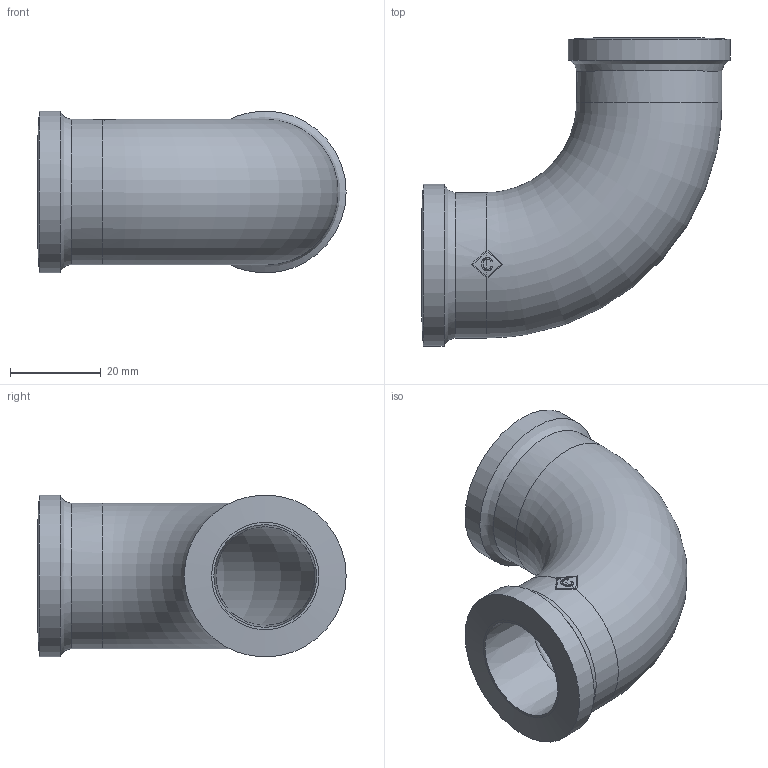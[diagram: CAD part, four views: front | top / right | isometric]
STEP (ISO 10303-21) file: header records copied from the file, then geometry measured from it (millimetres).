
FILE_DESCRIPTION((''),'2;1');
FILE_NAME('P:\Fastrack\53909_CRANE\Crane\Fig.193 Bend\New 0.75 inch\193-0.75.stp','2009-09-17T09:36:00',('btaylor'),(''),'Autodesk Inventor 2008','Autodesk Inventor 2008','');
FILE_SCHEMA(('AUTOMOTIVE_DESIGN { 1 0 10303 214 1 1 1 1 }'));
Length unit declared in the file: millimetre
Products named in the file (1): 193-0.75
Bounding box: 67.8 x 67.8 x 35.6 mm (x, y, z)
Volume: 28710 mm3; surface area: 16668.1 mm2
Topology: 1 solids, 1 shells, 43 faces, 119 edges, 78 vertices
Faces by surface type: bspline 12, plane 12, cylinder 8, torus 7, cone 4
Full cylindrical faces by diameter (mm): 32 x2, 35.6 x2
Entity records: 2588 total; most frequent: CARTESIAN_POINT 1639, ORIENTED_EDGE 202, DIRECTION 150, EDGE_CURVE 101, VERTEX_POINT 73, AXIS2_PLACEMENT_3D 66, EDGE_LOOP 56, B_SPLINE_CURVE_WITH_KNOTS 48
